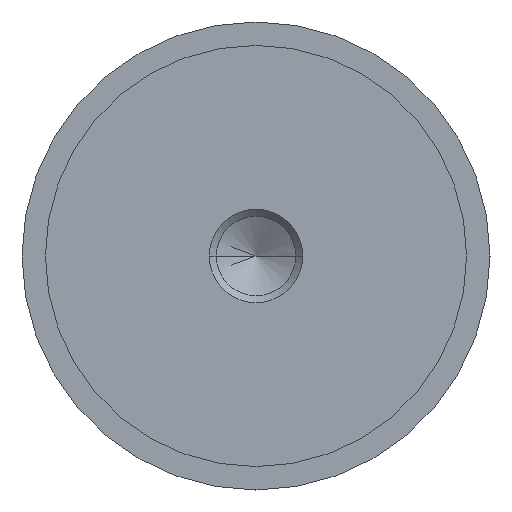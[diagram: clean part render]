
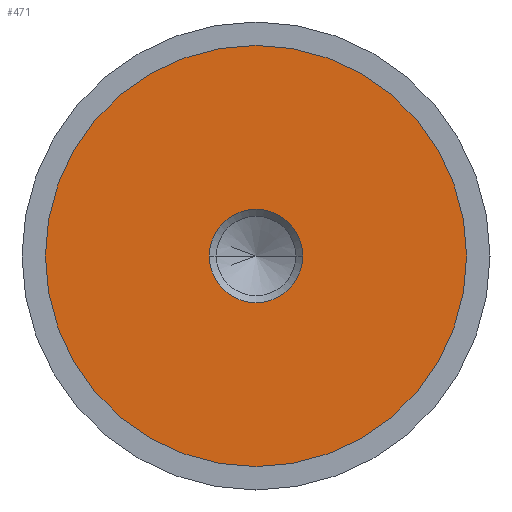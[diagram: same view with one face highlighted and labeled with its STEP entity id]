
A CAD part, left-side view. The second image highlights one B-rep face of the part: STEP entity #471.
In plain terms, the highlighted planar face has unit normal (-1, 0, 0).
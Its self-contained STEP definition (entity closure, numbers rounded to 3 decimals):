
#8 = VERTEX_POINT ( 'NONE', #761 ) ;
#10 = ORIENTED_EDGE ( 'NONE', *, *, #265, .T. ) ;
#19 = EDGE_CURVE ( 'NONE', #8, #293, #337, .T. ) ;
#37 = AXIS2_PLACEMENT_3D ( 'NONE', #718, #373, #506 ) ;
#56 = DIRECTION ( 'NONE',  ( 0., 0., -1. ) ) ;
#59 = FACE_OUTER_BOUND ( 'NONE', #335, .T. ) ;
#70 = FACE_BOUND ( 'NONE', #210, .T. ) ;
#140 = CARTESIAN_POINT ( 'NONE',  ( -9.99, 0., 0. ) ) ;
#174 = CARTESIAN_POINT ( 'NONE',  ( -9.99, 0., 0. ) ) ;
#199 = DIRECTION ( 'NONE',  ( 1., 0., 0. ) ) ;
#202 = ORIENTED_EDGE ( 'NONE', *, *, #859, .T. ) ;
#210 = EDGE_LOOP ( 'NONE', ( #10, #563 ) ) ;
#249 = AXIS2_PLACEMENT_3D ( 'NONE', #140, #414, #473 ) ;
#265 = EDGE_CURVE ( 'NONE', #379, #568, #607, .T. ) ;
#293 = VERTEX_POINT ( 'NONE', #651 ) ;
#306 = DIRECTION ( 'NONE',  ( -1., 0., 0. ) ) ;
#334 = EDGE_CURVE ( 'NONE', #568, #379, #643, .T. ) ;
#335 = EDGE_LOOP ( 'NONE', ( #447, #202 ) ) ;
#337 = CIRCLE ( 'NONE', #249, 18. ) ;
#339 = AXIS2_PLACEMENT_3D ( 'NONE', #791, #712, #445 ) ;
#373 = DIRECTION ( 'NONE',  ( 1., 0., 0. ) ) ;
#379 = VERTEX_POINT ( 'NONE', #527 ) ;
#414 = DIRECTION ( 'NONE',  ( -1., 0., 0. ) ) ;
#443 = DIRECTION ( 'NONE',  ( 0., 0., 1. ) ) ;
#445 = DIRECTION ( 'NONE',  ( 0., 0., -1. ) ) ;
#447 = ORIENTED_EDGE ( 'NONE', *, *, #19, .T. ) ;
#469 = CARTESIAN_POINT ( 'NONE',  ( -9.99, 18., 0. ) ) ;
#471 = ADVANCED_FACE ( 'NONE', ( #70, #59 ), #823, .F. ) ;
#473 = DIRECTION ( 'NONE',  ( 0., 0., 1. ) ) ;
#506 = DIRECTION ( 'NONE',  ( 0., 0., -1. ) ) ;
#527 = CARTESIAN_POINT ( 'NONE',  ( -9.99, -3.99, 0. ) ) ;
#531 = AXIS2_PLACEMENT_3D ( 'NONE', #469, #199, #56 ) ;
#563 = ORIENTED_EDGE ( 'NONE', *, *, #334, .T. ) ;
#568 = VERTEX_POINT ( 'NONE', #630 ) ;
#607 = CIRCLE ( 'NONE', #37, 3.99 ) ;
#630 = CARTESIAN_POINT ( 'NONE',  ( -9.99, 3.99, 0. ) ) ;
#643 = CIRCLE ( 'NONE', #339, 3.99 ) ;
#651 = CARTESIAN_POINT ( 'NONE',  ( -9.99, 0., -18. ) ) ;
#710 = AXIS2_PLACEMENT_3D ( 'NONE', #174, #306, #443 ) ;
#712 = DIRECTION ( 'NONE',  ( 1., 0., 0. ) ) ;
#718 = CARTESIAN_POINT ( 'NONE',  ( -9.99, 0., 0. ) ) ;
#761 = CARTESIAN_POINT ( 'NONE',  ( -9.99, 0., 18. ) ) ;
#765 = CIRCLE ( 'NONE', #710, 18. ) ;
#791 = CARTESIAN_POINT ( 'NONE',  ( -9.99, 0., 0. ) ) ;
#823 = PLANE ( 'NONE',  #531 ) ;
#859 = EDGE_CURVE ( 'NONE', #293, #8, #765, .T. ) ;
